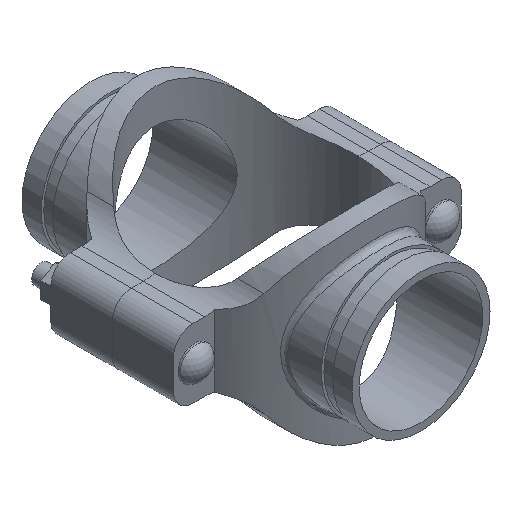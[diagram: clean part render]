
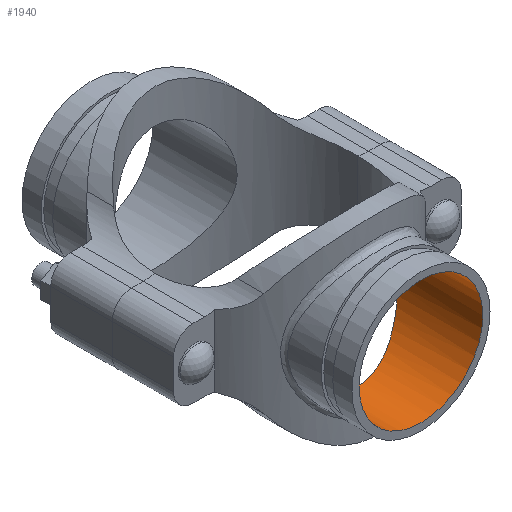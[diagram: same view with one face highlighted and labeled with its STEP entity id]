
A CAD part, isometric view. The second image highlights one B-rep face of the part: STEP entity #1940.
In plain terms, the highlighted cylindrical face has radius 51.197 mm (diameter 102.394 mm), a full revolution.
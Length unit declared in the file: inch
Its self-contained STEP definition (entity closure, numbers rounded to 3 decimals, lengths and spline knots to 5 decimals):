
#48=B_SPLINE_CURVE_WITH_KNOTS('',3,(#3932,#3933,#3934,#3935,#3936,#3937,
#3938,#3939,#3940,#3941,#3942,#3943,#3944,#3945,#3946,#3947,#3948,#3949,
#3950,#3951,#3952,#3953,#3954,#3955,#3956,#3957,#3958,#3959,#3960,#3961,
#3962,#3963,#3964,#3965,#3966,#3967,#3968,#3969,#3970,#3971,#3972,#3973,
#3974,#3975,#3976,#3977,#3978,#3979,#3980,#3981,#3982,#3983,#3984,#3985,
#3986,#3987,#3988,#3989,#3990,#3991,#3992,#3993,#3994,#3995,#3996,#3997),
 .UNSPECIFIED.,.T.,.F.,(4,2,2,2,2,2,2,2,2,2,2,2,2,2,2,2,2,2,2,2,2,2,2,2,
2,2,2,2,2,2,2,2,4),(0.,0.99933,1.99866,2.99799,
3.99732,4.98974,5.98216,6.97458,7.967,
8.95942,9.95184,10.94426,11.93668,12.93601,
13.93534,14.93467,15.934,16.93333,17.93266,
18.93199,19.93132,20.92374,21.91616,22.90858,
23.901,24.89342,25.88584,26.87826,27.87068,
28.87001,29.86934,30.86867,31.868),
 .UNSPECIFIED.);
#91=CYLINDRICAL_SURFACE('',#2169,2.01563);
#206=FACE_OUTER_BOUND('',#326,.T.);
#326=EDGE_LOOP('',(#1552,#1553,#1554,#1555));
#474=LINE('',#3931,#620);
#620=VECTOR('',#2620,2.01563);
#716=CIRCLE('',#2170,2.01563);
#877=VERTEX_POINT('',#3928);
#878=VERTEX_POINT('',#3930);
#1116=EDGE_CURVE('',#877,#877,#716,.T.);
#1117=EDGE_CURVE('',#877,#878,#474,.T.);
#1118=EDGE_CURVE('',#878,#878,#48,.T.);
#1552=ORIENTED_EDGE('',*,*,#1116,.F.);
#1553=ORIENTED_EDGE('',*,*,#1117,.T.);
#1554=ORIENTED_EDGE('',*,*,#1118,.F.);
#1555=ORIENTED_EDGE('',*,*,#1117,.F.);
#1940=ADVANCED_FACE('',(#206),#91,.F.);
#2169=AXIS2_PLACEMENT_3D('',#3927,#2616,#2617);
#2170=AXIS2_PLACEMENT_3D('',#3929,#2618,#2619);
#2616=DIRECTION('center_axis',(0.,-1.,0.));
#2617=DIRECTION('ref_axis',(-1.,0.,0.));
#2618=DIRECTION('center_axis',(0.,-1.,0.));
#2619=DIRECTION('ref_axis',(-1.,0.,0.));
#2620=DIRECTION('',(0.,-1.,0.));
#3927=CARTESIAN_POINT('Origin',(0.,5.38,0.));
#3928=CARTESIAN_POINT('',(2.01563,5.38,0.));
#3929=CARTESIAN_POINT('Origin',(0.,5.38,0.));
#3930=CARTESIAN_POINT('',(2.01563,2.62867,0.));
#3931=CARTESIAN_POINT('',(2.01563,5.38,0.));
#3932=CARTESIAN_POINT('Ctrl Pts',(2.01563,2.62867,0.));
#3933=CARTESIAN_POINT('Ctrl Pts',(2.01563,2.62867,-0.13115));
#3934=CARTESIAN_POINT('Ctrl Pts',(2.00264,2.63878,-0.26501));
#3935=CARTESIAN_POINT('Ctrl Pts',(1.94977,2.67809,-0.52838));
#3936=CARTESIAN_POINT('Ctrl Pts',(1.90992,2.70718,-0.65791));
#3937=CARTESIAN_POINT('Ctrl Pts',(1.80625,2.77742,-0.90448));
#3938=CARTESIAN_POINT('Ctrl Pts',(1.74235,2.81852,-1.02178));
#3939=CARTESIAN_POINT('Ctrl Pts',(1.59581,2.904,-1.23823));
#3940=CARTESIAN_POINT('Ctrl Pts',(1.51314,2.94831,-1.33739));
#3941=CARTESIAN_POINT('Ctrl Pts',(1.33799,3.03179,-1.51253));
#3942=CARTESIAN_POINT('Ctrl Pts',(1.23915,3.07415,-1.5951));
#3943=CARTESIAN_POINT('Ctrl Pts',(1.02263,3.1528,-1.74186));
#3944=CARTESIAN_POINT('Ctrl Pts',(0.90493,3.18904,-1.80606));
#3945=CARTESIAN_POINT('Ctrl Pts',(0.65747,3.24909,-1.9101));
#3946=CARTESIAN_POINT('Ctrl Pts',(0.52745,3.27293,-1.95003));
#3947=CARTESIAN_POINT('Ctrl Pts',(0.26384,3.30464,-2.0028));
#3948=CARTESIAN_POINT('Ctrl Pts',(0.13024,3.3125,-2.01563));
#3949=CARTESIAN_POINT('Ctrl Pts',(-0.13024,3.3125,-2.01563));
#3950=CARTESIAN_POINT('Ctrl Pts',(-0.26384,3.30464,-2.0028));
#3951=CARTESIAN_POINT('Ctrl Pts',(-0.52745,3.27293,-1.95003));
#3952=CARTESIAN_POINT('Ctrl Pts',(-0.65747,3.24909,-1.9101));
#3953=CARTESIAN_POINT('Ctrl Pts',(-0.90493,3.18904,-1.80606));
#3954=CARTESIAN_POINT('Ctrl Pts',(-1.02263,3.1528,-1.74186));
#3955=CARTESIAN_POINT('Ctrl Pts',(-1.23915,3.07415,-1.5951));
#3956=CARTESIAN_POINT('Ctrl Pts',(-1.33799,3.03179,-1.51253));
#3957=CARTESIAN_POINT('Ctrl Pts',(-1.51314,2.94831,-1.33739));
#3958=CARTESIAN_POINT('Ctrl Pts',(-1.59581,2.904,-1.23823));
#3959=CARTESIAN_POINT('Ctrl Pts',(-1.74235,2.81852,-1.02178));
#3960=CARTESIAN_POINT('Ctrl Pts',(-1.80625,2.77742,-0.90448));
#3961=CARTESIAN_POINT('Ctrl Pts',(-1.90992,2.70718,-0.65791));
#3962=CARTESIAN_POINT('Ctrl Pts',(-1.94977,2.67809,-0.52838));
#3963=CARTESIAN_POINT('Ctrl Pts',(-2.00264,2.63878,-0.26501));
#3964=CARTESIAN_POINT('Ctrl Pts',(-2.01563,2.62867,-0.13115));
#3965=CARTESIAN_POINT('Ctrl Pts',(-2.01563,2.62867,0.13115));
#3966=CARTESIAN_POINT('Ctrl Pts',(-2.00264,2.63878,0.26501));
#3967=CARTESIAN_POINT('Ctrl Pts',(-1.94977,2.67809,0.52838));
#3968=CARTESIAN_POINT('Ctrl Pts',(-1.90992,2.70718,0.65791));
#3969=CARTESIAN_POINT('Ctrl Pts',(-1.80625,2.77742,0.90448));
#3970=CARTESIAN_POINT('Ctrl Pts',(-1.74235,2.81852,1.02178));
#3971=CARTESIAN_POINT('Ctrl Pts',(-1.59581,2.904,1.23823));
#3972=CARTESIAN_POINT('Ctrl Pts',(-1.51314,2.94831,1.33739));
#3973=CARTESIAN_POINT('Ctrl Pts',(-1.33799,3.03179,1.51253));
#3974=CARTESIAN_POINT('Ctrl Pts',(-1.23915,3.07415,1.5951));
#3975=CARTESIAN_POINT('Ctrl Pts',(-1.02263,3.1528,1.74186));
#3976=CARTESIAN_POINT('Ctrl Pts',(-0.90493,3.18904,1.80606));
#3977=CARTESIAN_POINT('Ctrl Pts',(-0.65747,3.24909,1.9101));
#3978=CARTESIAN_POINT('Ctrl Pts',(-0.52745,3.27293,1.95003));
#3979=CARTESIAN_POINT('Ctrl Pts',(-0.26384,3.30464,2.0028));
#3980=CARTESIAN_POINT('Ctrl Pts',(-0.13024,3.3125,2.01563));
#3981=CARTESIAN_POINT('Ctrl Pts',(0.13024,3.3125,2.01563));
#3982=CARTESIAN_POINT('Ctrl Pts',(0.26384,3.30464,2.0028));
#3983=CARTESIAN_POINT('Ctrl Pts',(0.52745,3.27293,1.95003));
#3984=CARTESIAN_POINT('Ctrl Pts',(0.65747,3.24909,1.9101));
#3985=CARTESIAN_POINT('Ctrl Pts',(0.90493,3.18904,1.80606));
#3986=CARTESIAN_POINT('Ctrl Pts',(1.02263,3.1528,1.74186));
#3987=CARTESIAN_POINT('Ctrl Pts',(1.23915,3.07415,1.5951));
#3988=CARTESIAN_POINT('Ctrl Pts',(1.33799,3.03179,1.51253));
#3989=CARTESIAN_POINT('Ctrl Pts',(1.51314,2.94831,1.33739));
#3990=CARTESIAN_POINT('Ctrl Pts',(1.59581,2.904,1.23823));
#3991=CARTESIAN_POINT('Ctrl Pts',(1.74235,2.81852,1.02178));
#3992=CARTESIAN_POINT('Ctrl Pts',(1.80625,2.77742,0.90448));
#3993=CARTESIAN_POINT('Ctrl Pts',(1.90992,2.70718,0.65791));
#3994=CARTESIAN_POINT('Ctrl Pts',(1.94977,2.67809,0.52838));
#3995=CARTESIAN_POINT('Ctrl Pts',(2.00264,2.63878,0.26501));
#3996=CARTESIAN_POINT('Ctrl Pts',(2.01563,2.62867,0.13115));
#3997=CARTESIAN_POINT('Ctrl Pts',(2.01563,2.62867,0.));
